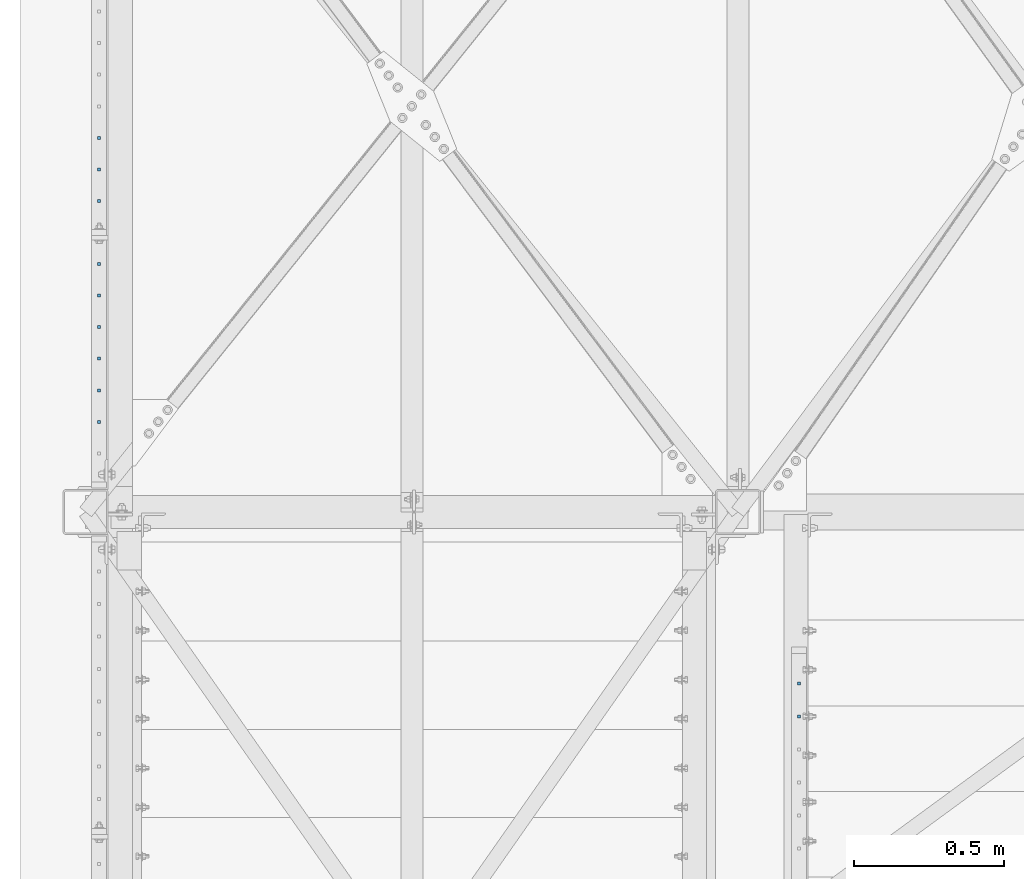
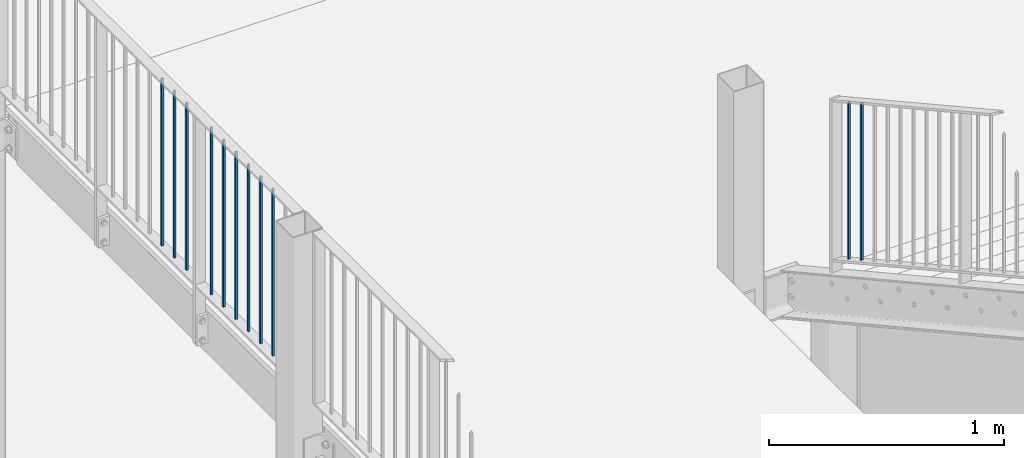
# One storey, part 45 of 78: 11 beams, 2 elements without a shape of their own.
"""IFC2X3 building model written with IfcOpenShell, lengths in millimetres."""

from ifc_helpers import new_model, si_unit, frame, origin_with_axes, origin_2d_with_axis, place, context, subcontext, project, spatial, rectangle, extrude, clip, halfspace, material, type_object, element, aggregate, save


model = new_model("IFC2X3")

# Units and contexts
model_context = context("Model", 3, precision=1e-05, world=origin_with_axes())
body_context = subcontext(model_context, "Body", "Model", "MODEL_VIEW")
ifc_project = project(units=[si_unit("LENGTHUNIT", "METRE", prefix="MILLI"), si_unit("AREAUNIT", "SQUARE_METRE"), si_unit("VOLUMEUNIT", "CUBIC_METRE"), si_unit("MASSUNIT", "GRAM", prefix="KILO"), si_unit("TIMEUNIT", "SECOND"), si_unit("PLANEANGLEUNIT", "RADIAN"), si_unit("SOLIDANGLEUNIT", "STERADIAN"), si_unit("THERMODYNAMICTEMPERATUREUNIT", "DEGREE_CELSIUS"), si_unit("LUMINOUSINTENSITYUNIT", "LUMEN")], contexts=[model_context])

# Site, building, storey
site_placement = place(None, origin_with_axes())
site = spatial("IfcSite", under=ifc_project, at=site_placement, Name="Site", CompositionType="ELEMENT")
building_placement = place(site_placement, origin_with_axes())
building = spatial("IfcBuilding", under=site, at=building_placement, Name="Undefined", CompositionType="ELEMENT")
storey_placement = place(building_placement, origin_with_axes())
storey = spatial("IfcBuildingStorey", under=building, at=storey_placement, Name="Undefined", CompositionType="ELEMENT", Elevation=0.0)

# Assembly, beams
assembly_1_placement = place(storey_placement, origin_with_axes())
assembly_1 = element("IfcElementAssembly", 1, at=assembly_1_placement, inside=storey, Name="MAIN_COURANTE", AssemblyPlace="NOTDEFINED", PredefinedType="RIGID_FRAME")
ifc_material = material(Name="STEEL/S235JR")
beam_type = type_object("IfcBeamType", Name="PL10*10", PredefinedType="NOTDEFINED")
beam_1_placement = place(assembly_1_placement, frame((-35341.4299999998, 10408.0, 157695.04), z_axis=(1.0, 0.0, 0.0), x_axis=(0.0, 0.0, -1.0)))
beam_1 = element("IfcBeam", 2, at=beam_1_placement, type_object=beam_type, material=ifc_material, Name="LISSE", ObjectType="PL10*10", context=body_context, shape_type="Clipping", body=[
    clip(clip(extrude(rectangle(XDim=10.0, YDim=10.0, at=origin_2d_with_axis()), frame((880.0, 0.0, 0.0), z_axis=(-1.0, 0.0, 0.0), x_axis=(0.0, -1.0, 0.0)), (0.0, 0.0, 1.0), 880.0), halfspace(frame((875.0, 0.0, 1005.0), z_axis=(1.0, 0.0, 0.0), x_axis=(0.0, 1.0, 0.0)), False)), halfspace(frame((5.0, 0.0, 1005.0), z_axis=(-1.0, 0.0, 0.0), x_axis=(0.0, -1.0, 0.0)), False)),
])
beam_2_placement = place(assembly_1_placement, frame((-35341.4299999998, 10513.0, 157695.04), z_axis=(1.0, 0.0, 0.0), x_axis=(0.0, 0.0, -1.0)))
beam_2 = element("IfcBeam", 3, at=beam_2_placement, type_object=beam_type, material=ifc_material, Name="LISSE", ObjectType="PL10*10", context=body_context, shape_type="Clipping", body=[
    clip(clip(extrude(rectangle(XDim=10.0, YDim=10.0, at=origin_2d_with_axis()), frame((880.0, 0.0, 0.0), z_axis=(-1.0, 0.0, 0.0), x_axis=(0.0, -1.0, 0.0)), (0.0, 0.0, 1.0), 880.0), halfspace(frame((875.0, 0.0, 1005.0), z_axis=(1.0, 0.0, 0.0), x_axis=(0.0, 1.0, 0.0)), False)), halfspace(frame((5.0, 0.0, 1005.0), z_axis=(-1.0, 0.0, 0.0), x_axis=(0.0, -1.0, 0.0)), False)),
])
beam_3_placement = place(assembly_1_placement, frame((-35341.4299999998, 10618.0, 157695.04), z_axis=(1.0, 0.0, 0.0), x_axis=(0.0, 0.0, -1.0)))
beam_3 = element("IfcBeam", 4, at=beam_3_placement, type_object=beam_type, material=ifc_material, Name="LISSE", ObjectType="PL10*10", context=body_context, shape_type="Clipping", body=[
    clip(clip(extrude(rectangle(XDim=10.0, YDim=10.0, at=origin_2d_with_axis()), frame((880.0, 0.0, 0.0), z_axis=(-1.0, 0.0, 0.0), x_axis=(0.0, -1.0, 0.0)), (0.0, 0.0, 1.0), 880.0), halfspace(frame((875.0, 0.0, 1005.0), z_axis=(1.0, 0.0, 0.0), x_axis=(0.0, 1.0, 0.0)), False)), halfspace(frame((5.0, 0.0, 1005.0), z_axis=(-1.0, 0.0, 0.0), x_axis=(0.0, -1.0, 0.0)), False)),
])
beam_4_placement = place(assembly_1_placement, frame((-35341.4299999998, 10723.0, 157695.04), z_axis=(1.0, 0.0, 0.0), x_axis=(0.0, 0.0, -1.0)))
beam_4 = element("IfcBeam", 5, at=beam_4_placement, type_object=beam_type, material=ifc_material, Name="LISSE", ObjectType="PL10*10", context=body_context, shape_type="Clipping", body=[
    clip(clip(extrude(rectangle(XDim=10.0, YDim=10.0, at=origin_2d_with_axis()), frame((880.0, 0.0, 0.0), z_axis=(-1.0, 0.0, 0.0), x_axis=(0.0, -1.0, 0.0)), (0.0, 0.0, 1.0), 880.0), halfspace(frame((875.0, 0.0, 1005.0), z_axis=(1.0, 0.0, 0.0), x_axis=(0.0, 1.0, 0.0)), False)), halfspace(frame((5.0, 0.0, 1005.0), z_axis=(-1.0, 0.0, 0.0), x_axis=(0.0, -1.0, 0.0)), False)),
])
beam_5_placement = place(assembly_1_placement, frame((-35341.4299999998, 10828.0, 157695.04), z_axis=(1.0, 0.0, 0.0), x_axis=(0.0, 0.0, -1.0)))
beam_5 = element("IfcBeam", 6, at=beam_5_placement, type_object=beam_type, material=ifc_material, Name="LISSE", ObjectType="PL10*10", context=body_context, shape_type="Clipping", body=[
    clip(clip(extrude(rectangle(XDim=10.0, YDim=10.0, at=origin_2d_with_axis()), frame((880.0, 0.0, 0.0), z_axis=(-1.0, 0.0, 0.0), x_axis=(0.0, -1.0, 0.0)), (0.0, 0.0, 1.0), 880.0), halfspace(frame((875.0, 0.0, 1005.0), z_axis=(1.0, 0.0, 0.0), x_axis=(0.0, 1.0, 0.0)), False)), halfspace(frame((5.0, 0.0, 1005.0), z_axis=(-1.0, 0.0, 0.0), x_axis=(0.0, -1.0, 0.0)), False)),
])
beam_6_placement = place(assembly_1_placement, frame((-35341.4299999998, 10933.0, 157695.04), z_axis=(1.0, 0.0, 0.0), x_axis=(0.0, 0.0, -1.0)))
beam_6 = element("IfcBeam", 7, at=beam_6_placement, type_object=beam_type, material=ifc_material, Name="LISSE", ObjectType="PL10*10", context=body_context, shape_type="Clipping", body=[
    clip(clip(extrude(rectangle(XDim=10.0, YDim=10.0, at=origin_2d_with_axis()), frame((880.0, 0.0, 0.0), z_axis=(-1.0, 0.0, 0.0), x_axis=(0.0, -1.0, 0.0)), (0.0, 0.0, 1.0), 880.0), halfspace(frame((875.0, 0.0, 1005.0), z_axis=(1.0, 0.0, 0.0), x_axis=(0.0, 1.0, 0.0)), False)), halfspace(frame((5.0, 0.0, 1005.0), z_axis=(-1.0, 0.0, 0.0), x_axis=(0.0, -1.0, 0.0)), False)),
])
beam_7_placement = place(assembly_1_placement, frame((-35341.4299999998, 11143.0, 157695.04), z_axis=(1.0, 0.0, 0.0), x_axis=(0.0, 0.0, -1.0)))
beam_7 = element("IfcBeam", 8, at=beam_7_placement, type_object=beam_type, material=ifc_material, Name="LISSE", ObjectType="PL10*10", context=body_context, shape_type="Clipping", body=[
    clip(clip(extrude(rectangle(XDim=10.0, YDim=10.0, at=origin_2d_with_axis()), frame((880.0, 0.0, 0.0), z_axis=(-1.0, 0.0, 0.0), x_axis=(0.0, -1.0, 0.0)), (0.0, 0.0, 1.0), 880.0), halfspace(frame((875.0, 0.0, 1005.0), z_axis=(1.0, 0.0, 0.0), x_axis=(0.0, 1.0, 0.0)), False)), halfspace(frame((5.0, 0.0, 1005.0), z_axis=(-1.0, 0.0, 0.0), x_axis=(0.0, -1.0, 0.0)), False)),
])
beam_8_placement = place(assembly_1_placement, frame((-35341.4299999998, 11248.0, 157695.04), z_axis=(1.0, 0.0, 0.0), x_axis=(0.0, 0.0, -1.0)))
beam_8 = element("IfcBeam", 9, at=beam_8_placement, type_object=beam_type, material=ifc_material, Name="LISSE", ObjectType="PL10*10", context=body_context, shape_type="Clipping", body=[
    clip(clip(extrude(rectangle(XDim=10.0, YDim=10.0, at=origin_2d_with_axis()), frame((880.0, 0.0, 0.0), z_axis=(-1.0, 0.0, 0.0), x_axis=(0.0, -1.0, 0.0)), (0.0, 0.0, 1.0), 880.0), halfspace(frame((875.0, 0.0, 1005.0), z_axis=(1.0, 0.0, 0.0), x_axis=(0.0, 1.0, 0.0)), False)), halfspace(frame((5.0, 0.0, 1005.0), z_axis=(-1.0, 0.0, 0.0), x_axis=(0.0, -1.0, 0.0)), False)),
])
beam_9_placement = place(assembly_1_placement, frame((-35341.4299999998, 11353.0, 157695.04), z_axis=(1.0, 0.0, 0.0), x_axis=(0.0, 0.0, -1.0)))
beam_9 = element("IfcBeam", 10, at=beam_9_placement, type_object=beam_type, material=ifc_material, Name="LISSE", ObjectType="PL10*10", context=body_context, shape_type="Clipping", body=[
    clip(clip(extrude(rectangle(XDim=10.0, YDim=10.0, at=origin_2d_with_axis()), frame((880.0, 0.0, 0.0), z_axis=(-1.0, 0.0, 0.0), x_axis=(0.0, -1.0, 0.0)), (0.0, 0.0, 1.0), 880.0), halfspace(frame((875.0, 0.0, 1005.0), z_axis=(1.0, 0.0, 0.0), x_axis=(0.0, 1.0, 0.0)), False)), halfspace(frame((5.0, 0.0, 1005.0), z_axis=(-1.0, 0.0, 0.0), x_axis=(0.0, -1.0, 0.0)), False)),
])
aggregate(assembly_1, [beam_1, beam_2, beam_3, beam_4, beam_5, beam_6, beam_7, beam_8, beam_9])

assembly_2_placement = place(storey_placement, origin_with_axes())
assembly_2 = element("IfcElementAssembly", 11, at=assembly_2_placement, inside=storey, Name="MAIN_COURANTE", AssemblyPlace="NOTDEFINED", PredefinedType="RIGID_FRAME")
beam_10_placement = place(assembly_2_placement, frame((-33012.8599999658, 9427.99999986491, 157921.169397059), z_axis=(1.0, 0.0, 0.0), x_axis=(0.0, 0.0, -1.0)))
beam_10 = element("IfcBeam", 12, at=beam_10_placement, type_object=beam_type, material=ifc_material, Name="LISSE", ObjectType="PL10*10", context=body_context, shape_type="Clipping", body=[
    clip(clip(extrude(rectangle(XDim=10.0, YDim=10.0, at=origin_2d_with_axis()), frame((831.449999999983, 0.0, 0.0), z_axis=(-1.0, 0.0, 0.0), x_axis=(0.0, -1.0, 0.0)), (0.0, 0.0, 1.0), 831.45), halfspace(frame((825.737291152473, 9.09494701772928e-13, 1005.0), z_axis=(0.875241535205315, -0.48368611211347, 0.0), x_axis=(0.48368611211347, 0.875241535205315, 0.0)), False)), halfspace(frame((5.71270869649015, 9.09494701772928e-13, 1005.0), z_axis=(-0.875241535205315, 0.483686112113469, 0.0), x_axis=(-0.483686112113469, -0.875241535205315, 0.0)), False)),
])
beam_11_placement = place(assembly_2_placement, frame((-33012.8599999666, 9537.99999986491, 157860.379923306), z_axis=(1.0, 0.0, 0.0), x_axis=(0.0, 0.0, -1.0)))
beam_11 = element("IfcBeam", 13, at=beam_11_placement, type_object=beam_type, material=ifc_material, Name="LISSE", ObjectType="PL10*10", context=body_context, shape_type="Clipping", body=[
    clip(clip(extrude(rectangle(XDim=10.0, YDim=10.0, at=origin_2d_with_axis()), frame((831.449999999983, 0.0, 0.0), z_axis=(-1.0, 0.0, 0.0), x_axis=(0.0, -1.0, 0.0)), (0.0, 0.0, 1.0), 831.45), halfspace(frame((825.737291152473, 9.09494701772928e-13, 1005.0), z_axis=(0.875241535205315, -0.48368611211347, 0.0), x_axis=(0.48368611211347, 0.875241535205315, 0.0)), False)), halfspace(frame((5.71270869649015, 9.09494701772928e-13, 1005.0), z_axis=(-0.875241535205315, 0.483686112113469, 0.0), x_axis=(-0.483686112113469, -0.875241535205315, 0.0)), False)),
])
aggregate(assembly_2, [beam_10, beam_11])

save(model, "model.ifc")
